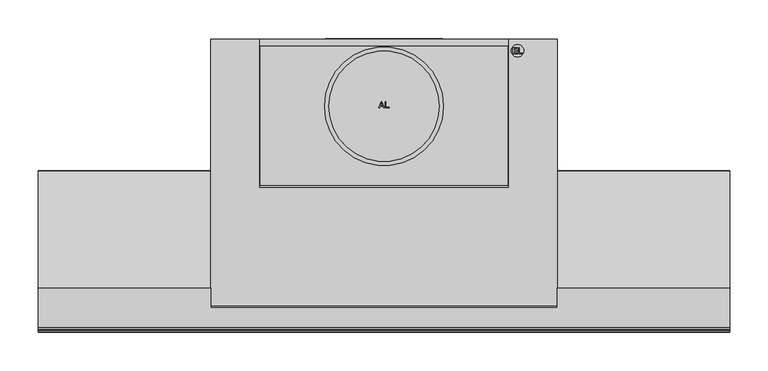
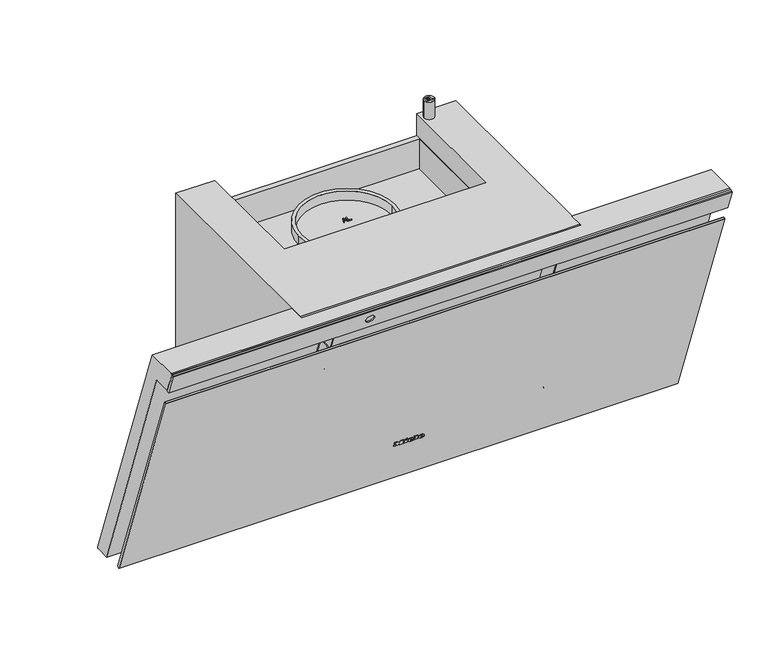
"""IFC4 building model written with IfcOpenShell, lengths in millimetres: proxy geometry, 12555240_TR_DAH4970_OBSW : 28H4970B_TR_12555240_DAH4970_OBSW."""

from ifc_helpers import new_model, si_unit, point, frame, frame_2d, origin, origin_with_axes, place, context, project, spatial, polyline, circle_curve, ellipse_curve, trimmed, segment, composite_curve, outline, extrude, faceted_brep, source, transform, mapped, element, save
from ifc_brep_helpers import plane_surface, cylinder_surface, revolved_surface, extruded_surface, advanced_brep


def specialty_equipment_a2cc4324(model_context):
    return source(origin(), model_context, "Body", "SolidModel", [
        extrude(outline(polyline([(0.0, 0.0), (0.968, 0.0), (0.968, 5.352), (0.0, 5.352), (0.0, 6.696), (3.52, 6.696), (3.52, 5.352), (2.56, 5.352), (2.56, 1.9488753), (6.136, 6.696), (9.728, 1.8807777), (9.728, 5.352), (8.744, 5.352), (8.744, 6.696), (15.128, 6.696), (15.128, 5.352), (14.112, 5.352), (14.112, 0.0), (15.128, 0.0), (15.128, -1.304), (10.256, -1.304), (7.92, 1.696), (5.576, -1.304), (0.0, -1.304), (0.0, 0.0)])), frame((-24.271984, -261.1380975, 82.2921818), z_axis=(0.0, 0.9396926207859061, 0.34202014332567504), x_axis=(1.0, 0.0, 0.0)), (0.0, 0.0, 1.0), 1.0),
        extrude(outline(polyline([(0.0, 0.0), (0.96, 0.0), (0.96, 5.352), (0.0, 5.352), (0.0, 6.696), (6.488, 6.696), (6.488, 5.352), (5.504, 5.352), (5.504, -1.304), (0.0, -1.304), (0.0, 0.0)])), frame((8.192016, -261.1380975, 82.2921818), z_axis=(0.0, 0.9396926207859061, 0.34202014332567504), x_axis=(1.0, 0.0, 0.0)), (0.0, 0.0, 1.0), 1.0),
        extrude(outline(polyline([(0.0, 0.0), (1.4315306, 0.0), (1.4390414, -2.9920869), (0.0109086, -2.9993294), (0.0, 0.0)])), frame((-6.351984, -261.4226582, 83.074006), z_axis=(0.0, 0.9396926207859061, 0.342020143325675), x_axis=(0.42472021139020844, 0.30963927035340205, -0.8507269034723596)), (0.0, 0.0, 1.0), 1.0),
        extrude(outline(polyline([(0.4933907, 2.4141097), (1.7898156, 3.022309), (2.1941493, 2.1604399), (5.1636141, 3.5535222), (4.7592805, 4.4153913), (5.9760369, 4.9862153), (8.6568708, -0.728194), (7.4401145, -1.299018), (7.0459741, -0.4588767), (2.7800843, -2.4601583), (0.4933907, 2.4141097)])), frame((-6.351984, -261.4226582, 83.074006), z_axis=(0.0, 0.9396926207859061, 0.342020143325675), x_axis=(0.42472021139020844, 0.30963927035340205, -0.8507269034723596)), (0.0, 0.0, 1.0), 1.0),
        advanced_brep(
        [(2.392016, -259.4964008, 77.7816572), (2.392016, -259.7727531, 78.5409288), (7.744016, -259.7727531, 78.5409288), (-1.567984, -259.7727531, 78.5409288), (0.632016, -258.8479306, 76.0), (7.608016, -259.4964008, 77.7816572), (5.192016, -259.4964008, 77.7816572), (3.288016, -259.1899507, 76.9396926), (2.392016, -260.1229817, 79.5031741), (2.392016, -260.4212233, 80.3225861), (3.760016, -260.4212233, 80.3225861), (3.760016, -260.1229817, 79.5031741), (2.392016, -258.5567082, 78.1236774), (3.288016, -258.2502581, 77.2817128), (5.192016, -258.5567082, 78.1236774), (7.608016, -258.5567082, 78.1236774), (0.632016, -257.908238, 76.3420201), (-1.567984, -258.8330604, 78.882949), (7.744016, -258.8330604, 78.882949), (2.392016, -258.8330604, 78.882949), (2.392016, -259.1832891, 79.8451942), (3.760016, -259.1832891, 79.8451942), (3.760016, -259.4815306, 80.6646062), (2.392016, -259.4815306, 80.6646062)],
        [
            (0, 1),
            (1, 2),
            (2, 3, ellipse_curve(frame((3.088016, -259.7727531, 78.5409288), z_axis=(0.0, -0.9396926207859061, -0.34202014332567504), x_axis=(-1.0, 0.0, 0.0)), 4.656, 3.848)),
            (3, 4, circle_curve(frame((1.5280596, -259.8657825, 78.7965252), z_axis=(0.0, -0.9396926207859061, -0.34202014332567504), x_axis=(0.0, 0.34202014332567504, -0.9396926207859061)), 3.1079688)),
            (4, 5, circle_curve(frame((2.9948096, -260.5881291, 80.7811561), z_axis=(0.0, -0.9396926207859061, -0.34202014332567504), x_axis=(0.0, 0.34202014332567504, -0.9396926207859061)), 5.6098607)),
            (5, 6),
            (6, 7, circle_curve(frame((3.6790748, -259.7508638, 78.4807885), z_axis=(0.0, 0.9396926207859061, 0.34202014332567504), x_axis=(0.0, 0.34202014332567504, -0.9396926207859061)), 1.6859795)),
            (7, 0, circle_curve(frame((3.288016, -259.4964008, 77.7816572), z_axis=(0.0, 0.9396926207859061, 0.34202014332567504), x_axis=(0.0, 0.34202014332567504, -0.9396926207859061)), 0.896)),
            (8, 9),
            (9, 10, circle_curve(frame((3.076016, -260.4212233, 80.3225861), z_axis=(0.0, 0.9396926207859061, 0.34202014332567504), x_axis=(0.0, 0.34202014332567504, -0.9396926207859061)), 0.684)),
            (10, 11),
            (11, 8),
            (12, 13, circle_curve(frame((3.288016, -258.5567082, 78.1236774), z_axis=(0.0, -0.9396926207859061, -0.34202014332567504), x_axis=(0.0, 0.34202014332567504, -0.9396926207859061)), 0.896)),
            (13, 14, circle_curve(frame((3.6790748, -258.8111712, 78.8228087), z_axis=(0.0, -0.9396926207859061, -0.34202014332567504), x_axis=(0.0, 0.34202014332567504, -0.9396926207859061)), 1.6859795)),
            (14, 15),
            (15, 16, circle_curve(frame((2.9948096, -259.6484365, 81.1231762), z_axis=(0.0, 0.9396926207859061, 0.34202014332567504), x_axis=(0.0, 0.34202014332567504, -0.9396926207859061)), 5.6098607)),
            (16, 17, circle_curve(frame((1.5280596, -258.9260899, 79.1385454), z_axis=(0.0, 0.9396926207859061, 0.34202014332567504), x_axis=(0.0, 0.34202014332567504, -0.9396926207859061)), 3.1079688)),
            (17, 18, ellipse_curve(frame((3.088016, -258.8330604, 78.882949), z_axis=(0.0, 0.9396926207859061, 0.34202014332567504), x_axis=(-1.0, 0.0, 0.0)), 4.656, 3.848)),
            (18, 19),
            (19, 12),
            (20, 21),
            (21, 22),
            (22, 23, circle_curve(frame((3.076016, -259.4815306, 80.6646062), z_axis=(0.0, -0.9396926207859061, -0.34202014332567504), x_axis=(0.0, 0.34202014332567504, -0.9396926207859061)), 0.684)),
            (23, 20),
            (0, 12),
            (19, 1),
            (18, 2),
            (5, 15),
            (14, 6),
            (17, 3),
            (13, 7),
            (16, 4),
            (8, 20),
            (23, 9),
            (22, 10),
            (21, 11),
        ],
        [
            plane_surface(frame((2.392016, -259.7727531, 78.5409288), z_axis=(0.0, -0.9396926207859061, -0.34202014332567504), x_axis=(0.0, -0.34202014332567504, 0.9396926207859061))),
            plane_surface(frame((2.392016, -258.8330604, 78.882949), z_axis=(0.0, 0.9396926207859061, 0.34202014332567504), x_axis=(0.0, 0.34202014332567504, -0.9396926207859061))),
            plane_surface(frame((2.392016, -259.4964008, 77.7816572), z_axis=(1.0, 0.0, 0.0), x_axis=(0.0, 0.9396926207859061, 0.34202014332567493))),
            plane_surface(frame((2.392016, -259.7727531, 78.5409288), z_axis=(0.0, 0.34202014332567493, -0.9396926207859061), x_axis=(0.0, 0.9396926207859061, 0.34202014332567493))),
            plane_surface(frame((7.608016, -259.4964008, 77.7816572), z_axis=(0.0, -0.34202014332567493, 0.9396926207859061), x_axis=(0.0, 0.9396926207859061, 0.34202014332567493))),
            extruded_surface(trimmed(ellipse_curve(frame((3.088016, -257.8933678, 79.2249691), z_axis=(0.0, -0.9396926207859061, -0.34202014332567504), x_axis=(-1.0, 0.0, 0.0)), 4.656, 3.848), [point((7.744016, -257.8933678, 79.2249691))], [point((-1.567984, -257.8933678, 79.2249691))], True, "CARTESIAN"), (0.0, -0.9396926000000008, -0.34202009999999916), 0.9999999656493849),
            revolved_surface(polyline([(3.6790748, -258.2345321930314, 77.23850622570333), (3.6790748, -259.1742248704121, 76.89648606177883)]), (3.6790748, -258.8111712, 78.8228087), (0.0, 0.9396926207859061, 0.34202014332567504)),
            revolved_surface(polyline([(3.288016, -258.25025810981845, 77.28171282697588), (3.288016, -259.1899507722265, 76.93969266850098)]), (3.288016, -258.5567082, 78.1236774), (0.0, 0.9396926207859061, 0.34202014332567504)),
            cylinder_surface(frame((1.5280596, -258.9260899, 79.1385454), z_axis=(0.0, -0.9396926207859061, -0.34202014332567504), x_axis=(0.0, 0.34202014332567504, -0.9396926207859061)), 3.1079688),
            cylinder_surface(frame((2.9948096, -259.6484365, 81.1231762), z_axis=(0.0, -0.9396926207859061, -0.34202014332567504), x_axis=(0.0, 0.34202014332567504, -0.9396926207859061)), 5.6098607),
            plane_surface(frame((2.392016, -260.1229817, 79.5031741), z_axis=(1.0, 0.0, 0.0), x_axis=(0.0, 0.9396926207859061, 0.34202014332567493))),
            revolved_surface(polyline([(3.076016, -259.2475888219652, 80.02185644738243), (3.076016, -260.1872814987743, 79.67983628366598)]), (3.076016, -259.4815306, 80.6646062), (0.0, 0.9396926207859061, 0.34202014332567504)),
            plane_surface(frame((3.760016, -260.4212233, 80.3225861), z_axis=(-1.0, 0.0, 0.0), x_axis=(0.0, 0.9396926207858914, 0.3420201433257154))),
            plane_surface(frame((3.760016, -260.1229817, 79.5031741), z_axis=(0.0, -0.34202014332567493, 0.9396926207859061), x_axis=(0.0, 0.9396926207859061, 0.34202014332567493))),
        ],
        [
            (0, [[1, 2, 3, 4, 5, 6, 7, 8], [9, 10, 11, 12]]),
            (1, [[13, 14, 15, 16, 17, 18, 19, 20], [21, 22, 23, 24]]),
            (2, [[-1, 25, -20, 26]]),
            (3, [[-2, -26, -19, 27]]),
            (4, [[-6, 28, -15, 29]]),
            (5, [[-3, -27, -18, 30]]),
            (6, [[-7, -29, -14, 31]]),
            (7, [[-8, -31, -13, -25]]),
            (8, [[-4, -30, -17, 32]]),
            (9, [[-5, -32, -16, -28]]),
            (10, [[-9, 33, -24, 34]]),
            (11, [[-10, -34, -23, 35]]),
            (12, [[-11, -35, -22, 36]]),
            (13, [[-12, -36, -21, -33]]),
        ],
    ),
        advanced_brep(
        [(19.088016, -259.4964008, 77.7816572), (19.088016, -259.7727531, 78.5409288), (24.440016, -259.7727531, 78.5409288), (15.128016, -259.7727531, 78.5409288), (17.328016, -258.8479306, 76.0), (24.304016, -259.4964008, 77.7816572), (21.888016, -259.4964008, 77.7816572), (19.984016, -259.1899507, 76.9396926), (19.088016, -260.1229817, 79.5031741), (19.088016, -260.4212233, 80.3225861), (20.456016, -260.4212233, 80.3225861), (20.456016, -260.1229817, 79.5031741), (19.088016, -258.5567082, 78.1236774), (19.984016, -258.2502581, 77.2817128), (21.888016, -258.5567082, 78.1236774), (24.304016, -258.5567082, 78.1236774), (17.328016, -257.908238, 76.3420201), (15.128016, -258.8330604, 78.882949), (24.440016, -258.8330604, 78.882949), (19.088016, -258.8330604, 78.882949), (19.088016, -259.1832891, 79.8451942), (20.456016, -259.1832891, 79.8451942), (20.456016, -259.4815306, 80.6646062), (19.088016, -259.4815306, 80.6646062)],
        [
            (0, 1),
            (1, 2),
            (2, 3, ellipse_curve(frame((19.784016, -259.7727531, 78.5409288), z_axis=(0.0, -0.9396926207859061, -0.34202014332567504), x_axis=(-1.0, 0.0, 0.0)), 4.656, 3.848)),
            (3, 4, circle_curve(frame((18.2240596, -259.8657825, 78.7965252), z_axis=(0.0, -0.9396926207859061, -0.34202014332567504), x_axis=(0.0, 0.34202014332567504, -0.9396926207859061)), 3.1079688)),
            (4, 5, circle_curve(frame((19.6908096, -260.5881291, 80.7811561), z_axis=(0.0, -0.9396926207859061, -0.34202014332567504), x_axis=(0.0, 0.34202014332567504, -0.9396926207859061)), 5.6098607)),
            (5, 6),
            (6, 7, circle_curve(frame((20.3750748, -259.7508638, 78.4807885), z_axis=(0.0, 0.9396926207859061, 0.34202014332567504), x_axis=(0.0, 0.34202014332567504, -0.9396926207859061)), 1.6859795)),
            (7, 0, circle_curve(frame((19.984016, -259.4964008, 77.7816572), z_axis=(0.0, 0.9396926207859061, 0.34202014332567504), x_axis=(0.0, 0.34202014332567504, -0.9396926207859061)), 0.896)),
            (8, 9),
            (9, 10, circle_curve(frame((19.772016, -260.4212233, 80.3225861), z_axis=(0.0, 0.9396926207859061, 0.34202014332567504), x_axis=(0.0, 0.34202014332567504, -0.9396926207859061)), 0.684)),
            (10, 11),
            (11, 8),
            (12, 13, circle_curve(frame((19.984016, -258.5567082, 78.1236774), z_axis=(0.0, -0.9396926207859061, -0.34202014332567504), x_axis=(0.0, 0.34202014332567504, -0.9396926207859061)), 0.896)),
            (13, 14, circle_curve(frame((20.3750748, -258.8111712, 78.8228087), z_axis=(0.0, -0.9396926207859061, -0.34202014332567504), x_axis=(0.0, 0.34202014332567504, -0.9396926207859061)), 1.6859795)),
            (14, 15),
            (15, 16, circle_curve(frame((19.6908096, -259.6484365, 81.1231762), z_axis=(0.0, 0.9396926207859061, 0.34202014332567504), x_axis=(0.0, 0.34202014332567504, -0.9396926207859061)), 5.6098607)),
            (16, 17, circle_curve(frame((18.2240596, -258.9260899, 79.1385454), z_axis=(0.0, 0.9396926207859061, 0.34202014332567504), x_axis=(0.0, 0.34202014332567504, -0.9396926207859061)), 3.1079688)),
            (17, 18, ellipse_curve(frame((19.784016, -258.8330604, 78.882949), z_axis=(0.0, 0.9396926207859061, 0.34202014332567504), x_axis=(-1.0, 0.0, 0.0)), 4.656, 3.848)),
            (18, 19),
            (19, 12),
            (20, 21),
            (21, 22),
            (22, 23, circle_curve(frame((19.772016, -259.4815306, 80.6646062), z_axis=(0.0, -0.9396926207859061, -0.34202014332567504), x_axis=(0.0, 0.34202014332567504, -0.9396926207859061)), 0.684)),
            (23, 20),
            (0, 12),
            (19, 1),
            (18, 2),
            (5, 15),
            (14, 6),
            (17, 3),
            (13, 7),
            (16, 4),
            (8, 20),
            (23, 9),
            (22, 10),
            (21, 11),
        ],
        [
            plane_surface(frame((19.088016, -259.7727531, 78.5409288), z_axis=(0.0, -0.9396926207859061, -0.34202014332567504), x_axis=(0.0, -0.34202014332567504, 0.9396926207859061))),
            plane_surface(frame((19.088016, -258.8330604, 78.882949), z_axis=(0.0, 0.9396926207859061, 0.34202014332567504), x_axis=(0.0, 0.34202014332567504, -0.9396926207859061))),
            plane_surface(frame((19.088016, -259.4964008, 77.7816572), z_axis=(1.0, 0.0, 0.0), x_axis=(0.0, 0.9396926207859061, 0.34202014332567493))),
            plane_surface(frame((19.088016, -259.7727531, 78.5409288), z_axis=(0.0, 0.34202014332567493, -0.9396926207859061), x_axis=(0.0, 0.9396926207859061, 0.34202014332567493))),
            plane_surface(frame((24.304016, -259.4964008, 77.7816572), z_axis=(0.0, -0.34202014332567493, 0.9396926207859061), x_axis=(0.0, 0.9396926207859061, 0.34202014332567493))),
            extruded_surface(trimmed(ellipse_curve(frame((19.784016, -257.8933678, 79.2249691), z_axis=(0.0, -0.9396926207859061, -0.34202014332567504), x_axis=(-1.0, 0.0, 0.0)), 4.656, 3.848), [point((24.440016, -257.8933678, 79.2249691))], [point((15.128016, -257.8933678, 79.2249691))], True, "CARTESIAN"), (0.0, -0.9396926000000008, -0.34202009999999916), 0.9999999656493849),
            revolved_surface(polyline([(20.3750748, -258.2345321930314, 77.23850622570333), (20.3750748, -259.1742248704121, 76.89648606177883)]), (20.3750748, -258.8111712, 78.8228087), (0.0, 0.9396926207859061, 0.34202014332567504)),
            revolved_surface(polyline([(19.984016, -258.25025810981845, 77.28171282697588), (19.984016, -259.1899507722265, 76.93969266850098)]), (19.984016, -258.5567082, 78.1236774), (0.0, 0.9396926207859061, 0.34202014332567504)),
            cylinder_surface(frame((18.2240596, -258.9260899, 79.1385454), z_axis=(0.0, -0.9396926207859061, -0.34202014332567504), x_axis=(0.0, 0.34202014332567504, -0.9396926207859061)), 3.1079688),
            cylinder_surface(frame((19.6908096, -259.6484365, 81.1231762), z_axis=(0.0, -0.9396926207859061, -0.34202014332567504), x_axis=(0.0, 0.34202014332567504, -0.9396926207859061)), 5.6098607),
            plane_surface(frame((19.088016, -260.1229817, 79.5031741), z_axis=(1.0, 0.0, 0.0), x_axis=(0.0, 0.9396926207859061, 0.34202014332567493))),
            revolved_surface(polyline([(19.772016, -259.2475888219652, 80.02185644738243), (19.772016, -260.1872814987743, 79.67983628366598)]), (19.772016, -259.4815306, 80.6646062), (0.0, 0.9396926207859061, 0.34202014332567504)),
            plane_surface(frame((20.456016, -260.4212233, 80.3225861), z_axis=(-1.0, 0.0, 0.0), x_axis=(0.0, 0.9396926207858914, 0.3420201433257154))),
            plane_surface(frame((20.456016, -260.1229817, 79.5031741), z_axis=(0.0, -0.34202014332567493, 0.9396926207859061), x_axis=(0.0, 0.9396926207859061, 0.34202014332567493))),
        ],
        [
            (0, [[1, 2, 3, 4, 5, 6, 7, 8], [9, 10, 11, 12]]),
            (1, [[13, 14, 15, 16, 17, 18, 19, 20], [21, 22, 23, 24]]),
            (2, [[-1, 25, -20, 26]]),
            (3, [[-2, -26, -19, 27]]),
            (4, [[-6, 28, -15, 29]]),
            (5, [[-3, -27, -18, 30]]),
            (6, [[-7, -29, -14, 31]]),
            (7, [[-8, -31, -13, -25]]),
            (8, [[-4, -30, -17, 32]]),
            (9, [[-5, -32, -16, -28]]),
            (10, [[-9, 33, -24, 34]]),
            (11, [[-10, -34, -23, 35]]),
            (12, [[-11, -35, -22, 36]]),
            (13, [[-12, -36, -21, -33]]),
        ],
    ),
        extrude(outline(polyline([(-360.7463335, 358.8873647), (-360.415052, 359.5978002), (-357.6978047, 360.5867974), (-356.9874893, 360.2555718), (-226.6813347, 2.2423544), (-227.0128466, 1.5314248), (-229.7316219, 0.5418715), (-230.4393591, 0.8718948), (-360.7463335, 358.8873647)])), frame((-449.0, 0.0, 0.0), z_axis=(1.0, 0.0, 0.0), x_axis=(0.0, 1.0, 0.0)), (0.0, 0.0, 1.0), 898.0),
        advanced_brep(
        [(-198.5, -231.2422284, 80.5173231), (-198.5, -240.9843308, 107.2835295), (-198.5, -235.8312261, 109.4708926), (-198.5, -225.8887113, 82.1540576), (-198.5, -250.514978, 76.8365225), (-198.5, -258.1140866, 97.7149017), (-198.5, -258.4754112, 96.7430581), (-198.5, -251.4164577, 77.3487429), (-198.5, -254.9459345, 87.0459005), (-198.5, -230.9198317, 95.7906867)],
        [
            (0, 1, circle_curve(frame((-198.5, -236.1132796, 93.9004263), z_axis=(0.0, 0.9396926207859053, 0.3420201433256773), x_axis=(0.0, -0.3420201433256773, 0.9396926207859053)), 14.2420009)),
            (1, 2),
            (2, 3, circle_curve(frame((-198.5, -230.8599687, 95.8124751), z_axis=(0.0, -0.9396926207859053, -0.3420201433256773), x_axis=(0.0, -0.3420201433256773, 0.9396926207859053)), 14.5349844)),
            (3, 0),
            (4, 5, circle_curve(frame((-198.5, -254.3145323, 87.2757121), z_axis=(0.0, 0.9396926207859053, 0.3420201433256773), x_axis=(0.0, -0.3420201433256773, 0.9396926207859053)), 11.1091535)),
            (5, 1),
            (0, 4),
            (6, 7, circle_curve(frame((-198.5, -254.9459345, 87.0459005), z_axis=(0.0, 0.9396926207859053, 0.3420201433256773), x_axis=(0.0, -0.3420201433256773, 0.9396926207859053)), 10.3194996)),
            (7, 4),
            (4, 5, circle_curve(frame((-198.5, -254.3145323, 87.2757121), z_axis=(0.0, -0.9396926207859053, -0.3420201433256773), x_axis=(0.0, -0.3420201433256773, 0.9396926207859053)), 11.1091535)),
            (5, 6),
            (8, 7),
            (6, 8),
            (2, 9),
            (9, 3),
            (2, 3, circle_curve(frame((-198.5, -230.9198317, 95.7906867), z_axis=(0.0, 0.9396926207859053, 0.3420201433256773), x_axis=(0.0, -0.3420201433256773, 0.9396926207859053)), 14.535124)),
            (1, 0, circle_curve(frame((-198.5, -236.1132796, 93.9004263), z_axis=(0.0, 0.9396926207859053, 0.3420201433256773), x_axis=(0.0, -0.3420201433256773, 0.9396926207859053)), 14.2420009)),
            (7, 6, circle_curve(frame((-198.5, -254.9459345, 87.0459005), z_axis=(0.0, 0.9396926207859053, 0.3420201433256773), x_axis=(0.0, -0.3420201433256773, 0.9396926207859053)), 10.3194996)),
        ],
        [
            revolved_surface(polyline([(-198.5, -235.8312261, 109.4708926), (-198.5, -240.9843308, 107.2835295)]), (-198.5, -255.2773841, 86.9252627), (0.0, -0.9396926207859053, -0.3420201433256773)),
            revolved_surface(polyline([(-198.5, -240.9843308, 107.2835295), (-198.5, -258.1140866, 97.7149017)]), (-198.5, -255.2773841, 86.9252627), (0.0, -0.9396926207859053, -0.3420201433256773)),
            revolved_surface(polyline([(-198.5, -258.1140866, 97.7149017), (-198.5, -258.4754112, 96.7430581)]), (-198.5, -255.2773841, 86.9252627), (0.0, -0.9396926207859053, -0.3420201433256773)),
            plane_surface(frame((-198.5, -254.9459345, 87.0459005), z_axis=(0.0, -0.9396926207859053, -0.3420201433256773), x_axis=(0.0, -0.3420201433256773, 0.9396926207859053))),
            plane_surface(frame((-198.5, -230.9198317, 95.7906867), z_axis=(0.0, 0.9396926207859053, 0.3420201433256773), x_axis=(0.0, -0.3420201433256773, 0.9396926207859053))),
        ],
        [
            (0, [[1, 2, 3, 4]]),
            (1, [[5, 6, -1, 7]]),
            (2, [[8, 9, 10, 11]]),
            (3, [[12, -8, 13]]),
            (4, [[-3, 14, 15]]),
            (4, [[16, -15, -14]]),
            (0, [[17, -4, -16, -2]]),
            (1, [[-10, -7, -17, -6]]),
            (2, [[18, -11, -5, -9]]),
            (3, [[-13, -18, -12]]),
        ],
    ),
        advanced_brep(
        [(-198.5, -262.8067778, 105.2732379), (-198.5, -249.4001153, 68.4387353), (-198.5, -252.3199878, 80.8696014), (-198.5, -257.0531232, 93.8737841), (-198.5, -250.699917, 68.232867), (-198.5, -263.9348133, 104.5954458), (-198.5, -257.3173652, 86.4141564), (-198.5, -254.6865555, 87.3716928)],
        [
            (0, 1, circle_curve(frame((-198.5, -256.1034466, 86.8559866), z_axis=(0.0, 0.9396926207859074, 0.34202014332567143), x_axis=(0.0, -0.34202014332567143, 0.9396926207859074)), 19.5992294)),
            (1, 2),
            (2, 3, circle_curve(frame((-198.5, -254.6865555, 87.3716928), z_axis=(0.0, -0.9396926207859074, -0.34202014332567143), x_axis=(0.0, -0.34202014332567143, 0.9396926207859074)), 6.9193811)),
            (3, 0),
            (1, 0, circle_curve(frame((-198.5, -256.1034466, 86.8559866), z_axis=(0.0, 0.9396926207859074, 0.34202014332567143), x_axis=(0.0, -0.34202014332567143, 0.9396926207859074)), 19.5992294)),
            (3, 2, circle_curve(frame((-198.5, -254.6865555, 87.3716928), z_axis=(0.0, -0.9396926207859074, -0.34202014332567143), x_axis=(0.0, -0.34202014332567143, 0.9396926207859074)), 6.9193811)),
            (4, 5, circle_curve(frame((-198.5, -257.3173652, 86.4141564), z_axis=(0.0, 0.9396926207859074, 0.34202014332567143), x_axis=(0.0, -0.34202014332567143, 0.9396926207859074)), 19.3481241)),
            (5, 0),
            (1, 4),
            (5, 4, circle_curve(frame((-198.5, -257.3173652, 86.4141564), z_axis=(0.0, 0.9396926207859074, 0.34202014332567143), x_axis=(0.0, -0.34202014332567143, 0.9396926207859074)), 19.3481241)),
            (6, 5),
            (4, 6),
            (3, 7),
            (7, 2),
        ],
        [
            revolved_surface(polyline([(-198.5, -257.0531232, 93.8737841), (-198.5, -262.8067778, 105.2732379)]), (-198.5, -254.6865555, 87.3716928), (0.0, -0.9396926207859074, -0.34202014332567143)),
            revolved_surface(polyline([(-198.5, -262.8067778, 105.2732379), (-198.5, -263.9348133, 104.5954458)]), (-198.5, -254.6865555, 87.3716928), (0.0, -0.9396926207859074, -0.34202014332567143)),
            plane_surface(frame((-198.5, -257.3173652, 86.4141564), z_axis=(0.0, -0.9396926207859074, -0.34202014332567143), x_axis=(0.0, -0.34202014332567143, 0.9396926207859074))),
            plane_surface(frame((-198.5, -254.6865555, 87.3716928), z_axis=(0.0, 0.9396926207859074, 0.34202014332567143), x_axis=(0.0, -0.34202014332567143, 0.9396926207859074))),
        ],
        [
            (0, [[1, 2, 3, 4]]),
            (0, [[5, -4, 6, -2]]),
            (1, [[7, 8, -5, 9]]),
            (1, [[10, -9, -1, -8]]),
            (2, [[11, -7, 12]]),
            (2, [[-12, -10, -11]]),
            (3, [[-6, 13, 14]]),
            (3, [[-3, -14, -13]]),
        ],
    ),
        advanced_brep(
        [(176.5, -181.0, 17.47316), (176.5, -176.8867205, 17.47316), (176.5, -170.778799, 0.6917834), (176.5, -172.0796342, -1.0), (176.5, -181.0, -1.0), (449.0, -323.3945088, 420.0), (449.0, -375.0979614, 420.0), (449.0, -376.7893982, 417.5843506), (449.0, -364.9985039, 385.1891347), (449.0, -363.3053284, 384.0), (449.0, -340.650621, 384.0), (449.0, -335.6111939, 385.7236467), (449.0, -196.7717369, -1.0), (449.0, -172.0796342, -1.0), (449.0, -170.778799, 0.6917834), (-449.0, -375.0979614, 420.0), (-449.0, -376.7893982, 417.5843506), (-225.0, -349.0492238, 420.0), (-225.0, -336.4744757, 385.4283765), (-225.0, -335.6111939, 385.7236467), (-225.0, -335.5051875, 385.4283765), (-225.0, -310.8114669, 385.4283765), (-225.0, -323.3945088, 420.0), (225.0, -335.5051875, 385.4283765), (225.0, -310.8114669, 385.4283765), (-176.5, -181.0, 17.47316), (-176.5, -176.8867205, 17.47316), (-176.5, -181.0, -1.0), (-176.5, -172.0796342, -1.0), (-176.5, -170.778799, 0.6917834), (-449.0, -323.3945088, 420.0), (-449.0, -170.778799, 0.6917834), (-449.0, -172.0796342, -1.0), (-449.0, -196.7717369, -1.0), (-449.0, -335.6111939, 385.7236467), (-449.0, -340.650621, 384.0), (-449.0, -363.3053284, 384.0), (-449.0, -364.9985039, 385.1891347), (225.0, -323.3945088, 420.0), (225.0, -349.0492238, 420.0), (225.0, -336.4744757, 385.4283765), (225.0, -335.6111939, 385.7236467)],
        [
            (0, 1),
            (1, 2),
            (2, 3, circle_curve(frame((176.5, -172.0796342, 0.3460066), z_axis=(-1.0, 0.0, 0.0), x_axis=(0.0, 1.0, 0.0)), 1.3460066)),
            (3, 4),
            (4, 0),
            (5, 6),
            (6, 7),
            (7, 8),
            (8, 9),
            (9, 10),
            (10, 11),
            (11, 12),
            (12, 13),
            (13, 14, circle_curve(frame((449.0, -172.0796342, 0.3460066), z_axis=(1.0, 0.0, 0.0), x_axis=(0.0, 1.0, 0.0)), 1.3460066)),
            (14, 5),
            (6, 15),
            (15, 16),
            (16, 7),
            (17, 18),
            (18, 19),
            (19, 20),
            (20, 21),
            (21, 22),
            (22, 17),
            (23, 24),
            (24, 21),
            (20, 23),
            (0, 25),
            (25, 26),
            (26, 1),
            (25, 27),
            (27, 28),
            (28, 29, circle_curve(frame((-176.5, -172.0796342, 0.3460066), z_axis=(1.0, 0.0, 0.0), x_axis=(0.0, 1.0, 0.0)), 1.3460066)),
            (29, 26),
            (4, 27),
            (30, 31),
            (31, 32, circle_curve(frame((-449.0, -172.0796342, 0.3460066), z_axis=(-1.0, 0.0, 0.0), x_axis=(0.0, 1.0, 0.0)), 1.3460066)),
            (32, 33),
            (33, 34),
            (34, 35),
            (35, 36),
            (36, 37),
            (37, 16),
            (15, 30),
            (5, 38),
            (38, 39),
            (39, 17),
            (22, 30),
            (37, 8),
            (36, 9),
            (35, 10),
            (34, 19),
            (18, 40),
            (40, 41),
            (41, 11),
            (41, 23),
            (33, 12),
            (32, 28),
            (3, 13),
            (2, 14),
            (31, 29),
            (24, 38),
            (40, 39),
        ],
        [
            plane_surface(frame((176.5, -181.0, 17.47316), z_axis=(-1.0, 0.0, 0.0), x_axis=(0.0, 0.0, -1.0))),
            plane_surface(frame((449.0, -323.3945088, 420.0), z_axis=(1.0, 0.0, 0.0), x_axis=(0.0, -1.0, 0.0))),
            plane_surface(frame((449.0, -375.0979614, 420.0), z_axis=(0.0, -0.8191550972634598, 0.5735720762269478), x_axis=(-1.0, 0.0, 0.0))),
            plane_surface(frame((-225.0, -336.4744757, 385.4283765), z_axis=(1.0000000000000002, 0.0, 0.0), x_axis=(0.0, -0.34182105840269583, 0.9397650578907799))),
            plane_surface(frame((225.0, -336.4744757, 385.4283765), z_axis=(0.0, 0.0, 1.0), x_axis=(-1.0, 0.0, 0.0))),
            plane_surface(frame((-176.5, -48.0, 17.47316), z_axis=(0.0, 0.0, -1.0), x_axis=(-1.0, 0.0, 0.0))),
            plane_surface(frame((-176.5, -48.0, 17.47316), z_axis=(1.0, 0.0, 0.0), x_axis=(0.0, 0.0, -1.0))),
            plane_surface(frame((-176.5, -181.0, 17.47316), z_axis=(0.0, 1.0, 0.0), x_axis=(0.0, 0.0, -1.0))),
            plane_surface(frame((-449.0, -323.3945088, 420.0), z_axis=(-1.0, 0.0, 0.0), x_axis=(0.0, 1.0, 0.0))),
            plane_surface(frame((449.0, -323.3945088, 420.0), z_axis=(0.0, 0.0, 1.0), x_axis=(-1.0, 0.0, 0.0))),
            plane_surface(frame((449.0, -376.7893982, 417.5843506), z_axis=(0.0, -0.9396926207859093, -0.3420201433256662), x_axis=(-1.0, 0.0, 0.0))),
            plane_surface(frame((449.0, -364.9985039, 385.1891347), z_axis=(0.0, -0.5747305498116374, -0.818342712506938), x_axis=(-1.0, 0.0, 0.0))),
            plane_surface(frame((449.0, -363.3053284, 384.0), z_axis=(0.0, 0.0, -1.0), x_axis=(-1.0, 0.0, 0.0))),
            plane_surface(frame((449.0, -340.650621, 384.0), z_axis=(0.0, 0.3236258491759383, -0.9461851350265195), x_axis=(-1.0, 0.0, 0.0))),
            plane_surface(frame((449.0, -335.6111939, 385.7236467), z_axis=(0.0, -0.9411826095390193, -0.3378983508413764), x_axis=(-1.0, 0.0, 0.0))),
            plane_surface(frame((449.0, -196.7717369, -1.0), z_axis=(0.0, 0.0, -1.0), x_axis=(-1.0, 0.0, 0.0))),
            cylinder_surface(frame((-449.0, -172.0796342, 0.3460066), z_axis=(1.0, 0.0, 0.0), x_axis=(0.0, 1.0, 0.0)), 1.3460066),
            plane_surface(frame((449.0, -170.778799, 0.6917834), z_axis=(0.0, 0.9396926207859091, 0.3420201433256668), x_axis=(-1.0, 0.0, 0.0))),
            plane_surface(frame((225.0, -336.4744757, 385.4283765), z_axis=(-1.0000000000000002, 0.0, 0.0), x_axis=(0.0, 0.34182105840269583, -0.9397650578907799))),
            plane_surface(frame((225.0, -349.0492238, 420.0), z_axis=(0.0, 0.9397650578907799, 0.34182105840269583), x_axis=(-1.0, 0.0, 0.0))),
        ],
        [
            (0, [[1, 2, 3, 4, 5]]),
            (1, [[6, 7, 8, 9, 10, 11, 12, 13, 14, 15]]),
            (2, [[-7, 16, 17, 18]]),
            (3, [[19, 20, 21, 22, 23, 24]]),
            (4, [[25, 26, -22, 27]]),
            (5, [[28, 29, 30, -1]]),
            (6, [[-29, 31, 32, 33, 34]]),
            (7, [[-28, -5, 35, -31]]),
            (8, [[36, 37, 38, 39, 40, 41, 42, 43, -17, 44]]),
            (9, [[-6, 45, 46, 47, -24, 48, -44, -16]]),
            (10, [[-8, -18, -43, 49]]),
            (11, [[-9, -49, -42, 50]]),
            (12, [[-10, -50, -41, 51]]),
            (13, [[-11, -51, -40, 52, -20, 53, 54, 55]]),
            (14, [[-12, -55, 56, -27, -21, -52, -39, 57]]),
            (15, [[-13, -57, -38, 58, -32, -35, -4, 59]]),
            (16, [[-14, -59, -3, 60]]),
            (16, [[-37, 61, -33, -58]]),
            (17, [[-15, -60, -2, -30, -34, -61, -36, -48, -23, -26, 62, -45]]),
            (18, [[63, -46, -62, -25, -56, -54]]),
            (19, [[-63, -53, -19, -47]]),
        ],
    ),
        extrude(outline(polyline([(-306.7195362, 239.6880975), (-295.2497253, 239.1867523), (-287.4936218, 230.7224274), (-265.2623125, 169.642407), (-265.763092, 158.1728363), (-274.227725, 150.4175862), (-279.8658073, 148.3654921), (-312.3576165, 237.6360041), (-306.7195362, 239.6880975)])), frame((181.7499655, 0.0, 0.0), z_axis=(1.0, 0.0, 0.0), x_axis=(0.0, 1.0, 0.0)), (0.0, 0.0, 1.0), 4.7307792),
        extrude(outline(polyline([(-345.8296012, 357.410578), (-334.3598001, 356.9092332), (-332.8038582, 355.2112159), (-317.287762, 312.581092), (-317.287762, 307.3632968), (-320.9842642, 303.6667946), (-334.5886296, 298.7152105), (-354.767901, 354.157303), (-345.8296012, 357.410578)])), frame((-183.7499655, 0.0, 0.0), z_axis=(1.0, 0.0, 0.0), x_axis=(0.0, 1.0, 0.0)), (0.0, 0.0, 1.0), 2.0),
        advanced_brep(
        [(198.5, -225.9091808, 82.1477994), (198.5, -235.8509293, 109.4625291), (198.5, -240.9843308, 107.2835295), (198.5, -231.2422284, 80.5173231), (198.5, -258.1140866, 97.7149017), (198.5, -250.514978, 76.8365225), (198.5, -230.9018417, 95.8650227), (198.5, -258.4754112, 96.7430581), (198.5, -251.4164577, 77.3487429), (198.5, -254.9459345, 87.0459005)],
        [
            (0, 1, circle_curve(frame((198.5, -230.8800551, 95.8051643), z_axis=(0.0, -0.9396926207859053, -0.3420201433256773), x_axis=(0.0, -0.3420201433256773, 0.9396926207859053)), 14.5338641)),
            (1, 2),
            (2, 3, circle_curve(frame((198.5, -236.1132796, 93.9004263), z_axis=(0.0, 0.9396926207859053, 0.3420201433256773), x_axis=(0.0, -0.3420201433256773, 0.9396926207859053)), 14.2420009)),
            (3, 0),
            (2, 4),
            (4, 5, circle_curve(frame((198.5, -254.3145323, 87.2757121), z_axis=(0.0, 0.9396926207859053, 0.3420201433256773), x_axis=(0.0, -0.3420201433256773, 0.9396926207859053)), 11.1091535)),
            (5, 3),
            (6, 1),
            (0, 6),
            (0, 1, circle_curve(frame((198.5, -230.8800551, 95.8051643), z_axis=(0.0, 0.9396926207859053, 0.3420201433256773), x_axis=(0.0, -0.3420201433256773, 0.9396926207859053)), 14.5338641)),
            (3, 2, circle_curve(frame((198.5, -236.1132796, 93.9004263), z_axis=(0.0, 0.9396926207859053, 0.3420201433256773), x_axis=(0.0, -0.3420201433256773, 0.9396926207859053)), 14.2420009)),
            (5, 4, circle_curve(frame((198.5, -254.3145323, 87.2757121), z_axis=(0.0, 0.9396926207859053, 0.3420201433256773), x_axis=(0.0, -0.3420201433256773, 0.9396926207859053)), 11.1091535)),
            (4, 7),
            (7, 8, circle_curve(frame((198.5, -254.9459345, 87.0459005), z_axis=(0.0, 0.9396926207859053, 0.3420201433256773), x_axis=(0.0, -0.3420201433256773, 0.9396926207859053)), 10.3194996)),
            (8, 5),
            (8, 7, circle_curve(frame((198.5, -254.9459345, 87.0459005), z_axis=(0.0, 0.9396926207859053, 0.3420201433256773), x_axis=(0.0, -0.3420201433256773, 0.9396926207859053)), 10.3194996)),
            (7, 9),
            (9, 8),
        ],
        [
            revolved_surface(polyline([(198.5, -240.9843308, 107.2835295), (198.5, -235.8509293, 109.4625291)]), (198.5, -255.2773841, 86.9252627), (0.0, 0.9396926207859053, 0.3420201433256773)),
            revolved_surface(polyline([(198.5, -258.1140866, 97.7149017), (198.5, -240.9843308, 107.2835295)]), (198.5, -255.2773841, 86.9252627), (0.0, 0.9396926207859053, 0.3420201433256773)),
            plane_surface(frame((198.5, -230.8800551, 95.8051643), z_axis=(0.0, 0.9396926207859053, 0.3420201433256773), x_axis=(0.0, -0.3420201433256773, 0.9396926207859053))),
            revolved_surface(polyline([(198.5, -258.4754112, 96.7430581), (198.5, -258.1140866, 97.7149017)]), (198.5, -255.2773841, 86.9252627), (0.0, 0.9396926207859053, 0.3420201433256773)),
            plane_surface(frame((198.5, -254.9459345, 87.0459005), z_axis=(0.0, -0.9396926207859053, -0.3420201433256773), x_axis=(0.0, -0.3420201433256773, 0.9396926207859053))),
        ],
        [
            (0, [[1, 2, 3, 4]]),
            (1, [[-3, 5, 6, 7]]),
            (2, [[8, -1, 9]]),
            (2, [[-9, 10, -8]]),
            (0, [[-10, -4, 11, -2]]),
            (1, [[-11, -7, 12, -5]]),
            (3, [[-6, 13, 14, 15]]),
            (3, [[-12, -15, 16, -13]]),
            (4, [[-14, 17, 18]]),
            (4, [[-16, -18, -17]]),
        ],
    ),
        advanced_brep(
        [(198.5, -252.3199878, 80.8696014), (198.5, -257.0531232, 93.8737841), (198.5, -262.8067778, 105.2732379), (198.5, -249.4001153, 68.4387353), (198.5, -263.9348133, 104.5954458), (198.5, -250.699917, 68.232867), (198.5, -257.3173652, 86.4141564), (198.5, -254.6865555, 87.3716928)],
        [
            (0, 1, circle_curve(frame((198.5, -254.6865555, 87.3716928), z_axis=(0.0, -0.9396926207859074, -0.34202014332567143), x_axis=(0.0, -0.34202014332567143, 0.9396926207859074)), 6.9193811)),
            (1, 2),
            (2, 3, circle_curve(frame((198.5, -256.1034466, 86.8559866), z_axis=(0.0, 0.9396926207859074, 0.34202014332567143), x_axis=(0.0, -0.34202014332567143, 0.9396926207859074)), 19.5992294)),
            (3, 0),
            (1, 0, circle_curve(frame((198.5, -254.6865555, 87.3716928), z_axis=(0.0, -0.9396926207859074, -0.34202014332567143), x_axis=(0.0, -0.34202014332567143, 0.9396926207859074)), 6.9193811)),
            (3, 2, circle_curve(frame((198.5, -256.1034466, 86.8559866), z_axis=(0.0, 0.9396926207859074, 0.34202014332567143), x_axis=(0.0, -0.34202014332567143, 0.9396926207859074)), 19.5992294)),
            (2, 4),
            (4, 5, circle_curve(frame((198.5, -257.3173652, 86.4141564), z_axis=(0.0, 0.9396926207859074, 0.34202014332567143), x_axis=(0.0, -0.34202014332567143, 0.9396926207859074)), 19.3481241)),
            (5, 3),
            (5, 4, circle_curve(frame((198.5, -257.3173652, 86.4141564), z_axis=(0.0, 0.9396926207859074, 0.34202014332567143), x_axis=(0.0, -0.34202014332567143, 0.9396926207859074)), 19.3481241)),
            (4, 6),
            (6, 5),
            (7, 1),
            (0, 7),
        ],
        [
            revolved_surface(polyline([(198.5, -262.8067778, 105.2732379), (198.5, -257.0531232, 93.8737841)]), (198.5, -254.6865555, 87.3716928), (0.0, 0.9396926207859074, 0.34202014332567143)),
            revolved_surface(polyline([(198.5, -263.9348133, 104.5954458), (198.5, -262.8067778, 105.2732379)]), (198.5, -254.6865555, 87.3716928), (0.0, 0.9396926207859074, 0.34202014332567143)),
            plane_surface(frame((198.5, -257.3173652, 86.4141564), z_axis=(0.0, -0.9396926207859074, -0.34202014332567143), x_axis=(0.0, -0.34202014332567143, 0.9396926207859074))),
            plane_surface(frame((198.5, -254.6865555, 87.3716928), z_axis=(0.0, 0.9396926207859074, 0.34202014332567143), x_axis=(0.0, -0.34202014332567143, 0.9396926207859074))),
        ],
        [
            (0, [[1, 2, 3, 4]]),
            (0, [[5, -4, 6, -2]]),
            (1, [[-3, 7, 8, 9]]),
            (1, [[-6, -9, 10, -7]]),
            (2, [[-8, 11, 12]]),
            (2, [[-10, -12, -11]]),
            (3, [[13, -1, 14]]),
            (3, [[-14, -5, -13]]),
        ],
    ),
        extrude(outline(composite_curve([segment(trimmed(circle_curve(frame_2d((0.0, -6.0)), 6.0), [point((0.0, -12.0))], [point((0.0, 0.0))], False, "CARTESIAN"), True, "CONTINUOUS"), segment(trimmed(circle_curve(frame_2d((0.0, -6.0)), 6.0), [point((0.0, 0.0))], [point((0.0, -12.0))], False, "CARTESIAN"), True, "CONTINUOUS")], self_intersect=False)), frame((198.4796168, -289.1352634, 208.4825387), z_axis=(0.0, -0.3420201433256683, 0.9396926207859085), x_axis=(0.0, -0.9396926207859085, -0.3420201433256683)), (0.0, 0.0, 1.0), 113.1205625),
        extrude(outline(polyline([(-361.9104566, 384.0), (-340.650621, 384.0), (-338.7456903, 384.6933381), (-330.4700245, 361.956133), (-328.2328821, 362.7698496), (-315.2229538, 327.0017899), (-323.0667018, 324.1487808), (-318.916642, 312.746585), (-320.3109418, 304.8391181), (-327.8390565, 302.0991084), (-333.9712794, 307.2377416), (-361.9104566, 384.0)])), frame((178.2999838, 0.0, 0.0), z_axis=(1.0, 0.0, 0.0), x_axis=(0.0, 1.0, 0.0)), (0.0, 0.0, 1.0), 2.0),
        extrude(outline(polyline([(-361.9104566, 384.0), (-340.650621, 384.0), (-338.7456903, 384.6933381), (-330.4700245, 361.956133), (-328.2328821, 362.7698496), (-315.2229538, 327.0017899), (-323.0667018, 324.1487808), (-318.916642, 312.746585), (-320.3109418, 304.8391181), (-327.8390565, 302.0991084), (-333.9712794, 307.2377416), (-361.9104566, 384.0)])), frame((-180.2999838, 0.0, 0.0), z_axis=(1.0, 0.0, 0.0), x_axis=(0.0, 1.0, 0.0)), (0.0, 0.0, 1.0), 2.0),
        advanced_brep(
        [(449.0, -381.0099753, 417.484771), (449.0, -380.6786938, 418.1952065), (-449.0, -380.6786938, 418.1952065), (-449.0, -381.0099753, 417.484771), (449.0, -368.349332, 382.6999393), (449.0, -367.6388965, 382.3686578), (449.0, -364.9380121, 383.3516993), (449.0, -364.5963793, 384.0843332), (449.0, -377.2511311, 418.8529781), (449.0, -377.9614465, 419.1842036), (-449.0, -377.9614465, 419.1842036), (-449.0, -377.2511311, 418.8529781), (-449.0, -364.5963793, 384.0843332), (-449.0, -364.9380121, 383.3516993), (-449.0, -367.6388965, 382.3686578), (-449.0, -368.349332, 382.6999393), (-121.7000162, -374.6828297, 400.1010812), (-135.7000162, -374.6828297, 400.1010812), (-135.7000162, -372.6478495, 400.8417534), (-121.7000162, -372.6478495, 400.8417534)],
        [
            (0, 1),
            (1, 2),
            (2, 3),
            (3, 0),
            (0, 4),
            (4, 5),
            (5, 6),
            (6, 7),
            (7, 8),
            (8, 9),
            (9, 1),
            (2, 10),
            (10, 11),
            (11, 12),
            (12, 13),
            (13, 14),
            (14, 15),
            (15, 3),
            (15, 4),
            (16, 17, circle_curve(frame((-128.7000162, -374.6828297, 400.1010812), z_axis=(0.0, 0.9396926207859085, 0.3420201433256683), x_axis=(1.0, 0.0, 0.0)), 7.0)),
            (17, 16, circle_curve(frame((-128.7000162, -374.6828297, 400.1010812), z_axis=(0.0, 0.9396926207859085, 0.3420201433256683), x_axis=(1.0, 0.0, 0.0)), 7.0)),
            (14, 5),
            (13, 6),
            (12, 7),
            (11, 8),
            (10, 9),
            (18, 19, circle_curve(frame((-128.7000162, -372.6478495, 400.8417534), z_axis=(0.0, -0.9396926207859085, -0.3420201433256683), x_axis=(1.0, 0.0, 0.0)), 7.0)),
            (19, 18, circle_curve(frame((-128.7000162, -372.6478495, 400.8417534), z_axis=(0.0, -0.9396926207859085, -0.3420201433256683), x_axis=(1.0, 0.0, 0.0)), 7.0)),
            (18, 17),
            (16, 19),
        ],
        [
            plane_surface(frame((449.0, -380.6786938, 418.1952065), z_axis=(0.0, -0.9063077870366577, 0.42261826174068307), x_axis=(-1.0, 0.0, 0.0))),
            plane_surface(frame((449.0, -368.3552555, 382.7162141), z_axis=(1.0, 0.0, 0.0), x_axis=(0.0, 0.342020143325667, -0.939692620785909))),
            plane_surface(frame((-449.0, -368.3552555, 382.7162141), z_axis=(-1.0, 0.0, 0.0), x_axis=(0.0, -0.342020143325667, 0.939692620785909))),
            plane_surface(frame((449.0, -381.0099753, 417.484771), z_axis=(0.0, -0.939692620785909, -0.342020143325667), x_axis=(-1.0, 0.0, 0.0))),
            plane_surface(frame((449.0, -368.349332, 382.6999393), z_axis=(0.0, -0.42261826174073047, -0.9063077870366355), x_axis=(-1.0, 0.0, 0.0))),
            plane_surface(frame((449.0, -367.6388965, 382.3686578), z_axis=(0.0, 0.3420201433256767, -0.9396926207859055), x_axis=(-1.0, 0.0, 0.0))),
            plane_surface(frame((449.0, -364.9380121, 383.3516993), z_axis=(0.0, 0.906307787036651, -0.42261826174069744), x_axis=(-1.0, 0.0, 0.0))),
            plane_surface(frame((449.0, -364.5963793, 384.0843332), z_axis=(0.0, 0.93969262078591, 0.3420201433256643), x_axis=(-1.0, 0.0, 0.0))),
            plane_surface(frame((449.0, -377.2511311, 418.8529781), z_axis=(0.0, 0.4226182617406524, 0.9063077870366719), x_axis=(-1.0, 0.0, 0.0))),
            plane_surface(frame((449.0, -377.9614465, 419.1842036), z_axis=(0.0, -0.34202014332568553, 0.9396926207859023), x_axis=(-1.0, 0.0, 0.0))),
            plane_surface(frame((-121.7000162, -372.6478495, 400.8417534), z_axis=(0.0, -0.9396926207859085, -0.3420201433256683), x_axis=(0.0, 0.3420201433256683, -0.9396926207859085))),
            revolved_surface(polyline([(-121.7000162, -374.6828296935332, 400.10108118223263), (-121.7000162, -372.6478495, 400.8417534)]), (-128.7000162, -372.6478495, 400.8417534), (0.0, -0.9396926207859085, -0.3420201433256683)),
        ],
        [
            (0, [[1, 2, 3, 4]]),
            (1, [[5, 6, 7, 8, 9, 10, 11, -1]]),
            (2, [[-3, 12, 13, 14, 15, 16, 17, 18]]),
            (3, [[-5, -4, -18, 19], [20, 21]]),
            (4, [[-6, -19, -17, 22]]),
            (5, [[-7, -22, -16, 23]]),
            (6, [[-8, -23, -15, 24]]),
            (7, [[-9, -24, -14, 25]]),
            (8, [[-10, -25, -13, 26]]),
            (9, [[-11, -26, -12, -2]]),
            (10, [[27, 28]]),
            (11, [[-27, 29, -20, 30]]),
            (11, [[-28, -30, -21, -29]]),
        ],
    ),
        faceted_brep([(225.0000193, -346.0, 420.0), (225.0000193, -193.2332597, 0.0), (225.0000193, 0.0, 0.0), (225.0000193, 0.0, 420.0), (-225.0000193, -346.0, 420.0), (-225.0000193, 0.0, 420.0), (-225.0000193, 0.0, 0.0), (-225.0000193, -193.2332597, 0.0), (176.5, -48.0, 0.0), (-176.5, -48.0, 0.0), (-176.5, -181.0, 0.0), (176.5, -181.0, 0.0), (125.0, -12.0, 0.0), (-125.0, -12.0, 0.0), (-125.0, -38.0, 0.0), (125.0, -38.0, 0.0), (-162.2229137, 0.0, 420.0), (-162.2229137, 0.0, 382.5), (162.2229137, 0.0, 382.5), (162.2229137, 0.0, 420.0), (-160.9556997, -9.0, 332.0), (160.9556997, -9.0, 332.0), (160.9556997, -9.0, 382.5), (-160.9556997, -9.0, 382.5), (-160.9556997, -190.0399284, 332.0), (-160.9556997, -190.0399284, 382.5), (160.9556997, -190.0399284, 332.0), (160.9556997, -190.0399284, 382.5), (176.5, -48.0, 11.0), (-176.5, -48.0, 11.0), (125.0, -12.0, 11.0), (-125.0, -12.0, 11.0), (162.2229137, -193.2332597, 420.0), (-162.2229137, -193.2332597, 420.0), (176.5, -181.0, 11.0), (-176.5, -181.0, 11.0), (125.0, -38.0, 11.0), (-125.0, -38.0, 11.0), (162.2229137, -193.2332597, 382.5), (-162.2229137, -193.2332597, 382.5)], [[[0, 1, 2, 3]], [[4, 5, 6, 7]], [[1, 0, 4, 7]], [[2, 1, 7, 6], [8, 9, 10, 11], [12, 13, 14, 15]], [[3, 2, 6, 5, 16, 17, 18, 19]], [[20, 21, 22, 23]], [[24, 20, 23, 25]], [[21, 26, 27, 22]], [[28, 29, 9, 8]], [[30, 31, 13, 12]], [[0, 3, 19, 32, 33, 16, 5, 4]], [[21, 20, 24, 26]], [[26, 24, 25, 27]], [[28, 34, 35, 29]], [[29, 35, 10, 9]], [[35, 34, 11, 10]], [[34, 28, 8, 11]], [[30, 36, 37, 31]], [[31, 37, 14, 13]], [[37, 36, 15, 14]], [[36, 30, 12, 15]], [[32, 38, 39, 33]], [[39, 38, 18, 17], [23, 22, 27, 25]], [[38, 32, 19, 18]], [[33, 39, 17, 16]]]),
        extrude(outline(polyline([(125.0, -12.0), (125.0, -38.0), (-125.0, -38.0), (-125.0, -12.0), (125.0, -12.0)]), holes=[polyline([(-119.0, -31.2), (119.0, -31.2), (119.0, -18.8), (-119.0, -18.8), (-119.0, -31.2)])]), origin_with_axes(), (0.0, 0.0, 1.0), 11.0),
        extrude(outline(polyline([(119.0, -18.8), (119.0, -31.2), (-119.0, -31.2), (-119.0, -18.8), (119.0, -18.8)])), origin_with_axes(), (0.0, 0.0, 1.0), 11.0),
        extrude(outline(polyline([(176.5, -48.0), (176.5, -181.0), (-176.5, -181.0), (-176.5, -48.0), (176.5, -48.0)]), holes=[polyline([(167.5, -57.0), (-167.5, -57.0), (-167.5, -172.0), (167.5, -172.0), (167.5, -57.0)])]), origin_with_axes(), (0.0, 0.0, 1.0), 11.0),
        extrude(outline(polyline([(167.5, -57.0), (167.5, -172.0), (-167.5, -172.0), (-167.5, -57.0), (167.5, -57.0)])), frame((0.0, 0.0, 1.0), z_axis=(0.0, 0.0, 1.0), x_axis=(1.0, 0.0, 0.0)), (0.0, 0.0, 1.0), 10.0),
        extrude(outline(polyline([(-167.5, -98.0), (-124.5000193, -98.0), (-124.5000193, -131.0), (-167.5, -131.0), (-167.5, -98.0)]), holes=[polyline([(-131.0000193, -104.5), (-160.0000193, -104.5), (-160.0000193, -124.5), (-131.0000193, -124.5), (-131.0000193, -104.5)])]), origin_with_axes(), (0.0, 0.0, 1.0), 1.0),
        extrude(outline(polyline([(-131.0000193, -104.5), (-131.0000193, -124.5), (-140.0000193, -124.5), (-140.0000193, -104.5), (-131.0000193, -104.5)])), origin_with_axes(), (0.0, 0.0, 1.0), 1.0),
        extrude(outline(composite_curve([segment(trimmed(circle_curve(frame_2d((0.0, -86.9971466)), 77.2963157), [point((-77.2963157, -86.9971466))], [point((77.2963157, -86.9971466))], False, "CARTESIAN"), True, "CONTINUOUS"), segment(trimmed(circle_curve(frame_2d((0.0, -86.9971466)), 77.2963157), [point((77.2963157, -86.9971466))], [point((-77.2963157, -86.9971466))], False, "CARTESIAN"), True, "CONTINUOUS")], self_intersect=False), holes=[composite_curve([segment(trimmed(circle_curve(frame_2d((0.0, -86.9971466)), 71.617422), [point((-71.617422, -86.9971466))], [point((71.617422, -86.9971466))], True, "CARTESIAN"), True, "CONTINUOUS"), segment(trimmed(circle_curve(frame_2d((0.0, -86.9971466)), 71.617422), [point((71.617422, -86.9971466))], [point((-71.617422, -86.9971466))], True, "CARTESIAN"), True, "CONTINUOUS")], self_intersect=False)]), frame((0.0, 0.0, 332.0), z_axis=(0.0, 0.0, 1.0), x_axis=(1.0, 0.0, 0.0)), (0.0, 0.0, 1.0), 15.9326282),
        extrude(outline(polyline([(-6.8377, -89.2416424), (-3.629769, -81.2051375), (-2.7743208, -81.2051375), (0.4336102, -89.2416424), (-0.6278519, -89.2416424), (-1.5480474, -86.7302346), (-4.8580044, -86.7302346), (-5.7762378, -89.2416424), (-6.8377, -89.2416424)]), holes=[polyline([(-4.4891414, -85.7256715), (-1.9149484, -85.7256715), (-2.6389402, -83.7498999), (-3.2020449, -82.2097006), (-3.7023644, -83.5772407), (-4.4891414, -85.7256715)])]), frame((0.0, 0.0, 347.9326282), z_axis=(0.0, 0.0, 1.0), x_axis=(1.0, 0.0, 0.0)), (0.0, 0.0, 1.0), 1.0),
        extrude(outline(polyline([(1.5068447, -89.2416424), (1.5068447, -81.2051375), (2.5114078, -81.2051375), (2.5114078, -88.2370793), (6.5296602, -88.2370793), (6.5296602, -89.2416424), (1.5068447, -89.2416424)])), frame((0.0, 0.0, 347.9326282), z_axis=(0.0, 0.0, 1.0), x_axis=(1.0, 0.0, 0.0)), (0.0, 0.0, 1.0), 1.0),
        extrude(outline(composite_curve([segment(trimmed(circle_curve(frame_2d((192.5519409, 0.0)), 76.1990432), [point((192.5519409, -76.1990432))], [point((192.5519409, 76.1990432))], False, "CARTESIAN"), True, "CONTINUOUS"), segment(trimmed(circle_curve(frame_2d((192.5519409, 0.0)), 76.1990432), [point((192.5519409, 76.1990432))], [point((192.5519409, -76.1990432))], False, "CARTESIAN"), True, "CONTINUOUS")], self_intersect=False)), frame((0.0, 0.0, 0.0), z_axis=(0.0, 1.0, 0.0), x_axis=(0.0, 0.0, 1.0)), (0.0, 0.0, 1.0), 1.0),
        extrude(outline(composite_curve([segment(trimmed(circle_curve(frame_2d((173.4999807, -15.0000005)), 8.0), [point((165.4999807, -15.0000005))], [point((181.4999807, -15.0000005))], False, "CARTESIAN"), True, "CONTINUOUS"), segment(trimmed(circle_curve(frame_2d((173.4999807, -15.0000005)), 8.0), [point((181.4999807, -15.0000005))], [point((165.4999807, -15.0000005))], False, "CARTESIAN"), True, "CONTINUOUS")], self_intersect=False)), frame((0.0, 0.0, 420.0), z_axis=(0.0, 0.0, 1.0), x_axis=(1.0, 0.0, 0.0)), (0.0, 0.0, 1.0), 30.0),
        extrude(outline(polyline([(167.5981725, -19.0000005), (167.5981725, -10.9634957), (173.3744104, -10.9634957), (173.3744104, -11.9680588), (168.6027356, -11.9680588), (168.6027356, -14.3538961), (173.1232696, -14.3538961), (173.1232696, -15.3584592), (168.6027356, -15.3584592), (168.6027356, -17.9954374), (173.4999807, -17.9954374), (173.4999807, -19.0000005), (167.5981725, -19.0000005)])), frame((0.0, 0.0, 450.0), z_axis=(0.0, 0.0, 1.0), x_axis=(1.0, 0.0, 0.0)), (0.0, 0.0, 1.0), 1.0),
        extrude(outline(polyline([(175.0068254, -19.0000005), (175.0068254, -10.9634957), (176.0113885, -10.9634957), (176.0113885, -17.9954374), (180.0296409, -17.9954374), (180.0296409, -19.0000005), (175.0068254, -19.0000005)])), frame((0.0, 0.0, 450.0), z_axis=(0.0, 0.0, 1.0), x_axis=(1.0, 0.0, 0.0)), (0.0, 0.0, 1.0), 1.0),
    ])


if __name__ == "__main__":
    model = new_model("IFC4")
    model_context = context("Model", 3, world=origin())
    ifc_project = project(units=[si_unit("LENGTHUNIT", "METRE", prefix="MILLI")], contexts=[model_context])
    site = spatial("IfcSite", under=ifc_project)
    building = spatial("IfcBuilding", under=site)
    placement = place(None, origin())
    specialty_equipment_shape = specialty_equipment_a2cc4324(model_context)
    element("IfcBuildingElementProxy", 1, Name="12555240_TR_DAH4970_OBSW : 28H4970B_TR_12555240_DAH4970_OBSW", ObjectType="12555240_TR_DAH4970_OBSW : 28H4970B_TR_12555240_DAH4970_OBSW", at=placement, inside=building, context=model_context, shape_type="MappedRepresentation", body=[
        mapped(specialty_equipment_shape, transform((0.0, 0.0, 0.0), x_axis=(1.0, 0.0, 0.0), y_axis=(0.0, 1.0, 0.0), z_axis=(0.0, 0.0, 1.0))),
    ])
    save(model, "model.ifc")
